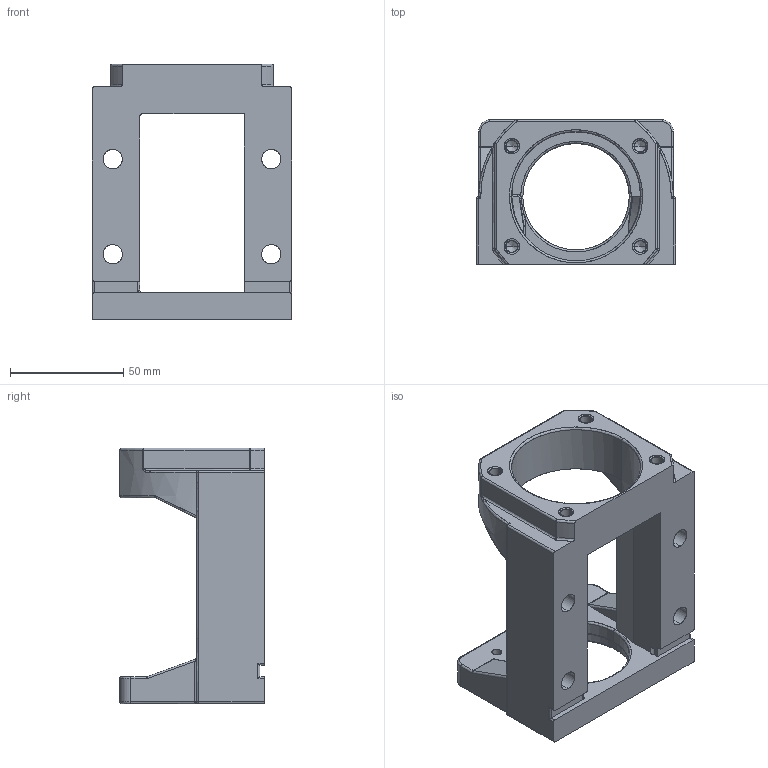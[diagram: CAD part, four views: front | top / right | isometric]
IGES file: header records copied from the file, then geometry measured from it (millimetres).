
Start section: SolidWorks IGES file using analytic representation for surfaces
Bounding box: 88 x 64 x 113 mm (x, y, z)
Surface area: 45807.1 mm2 (no closed solid volume)
Topology: 0 solids, 0 shells, 285 faces, 3093 edges, 3066 vertices
Faces by surface type: revolution 154, bspline 131
